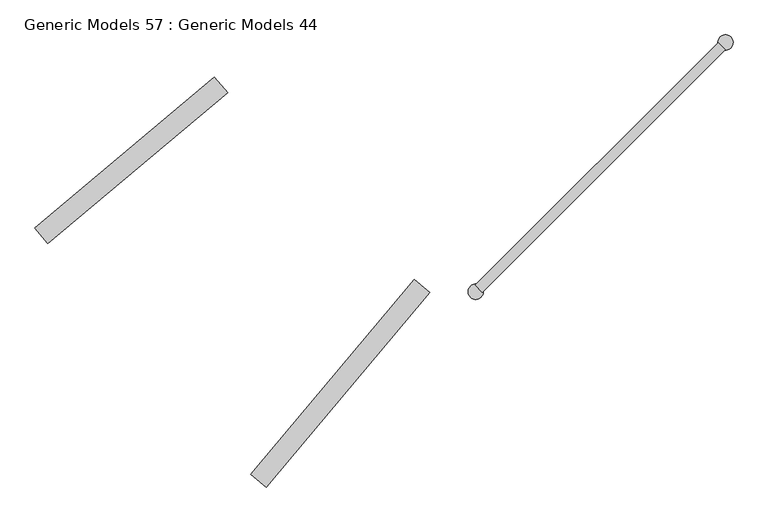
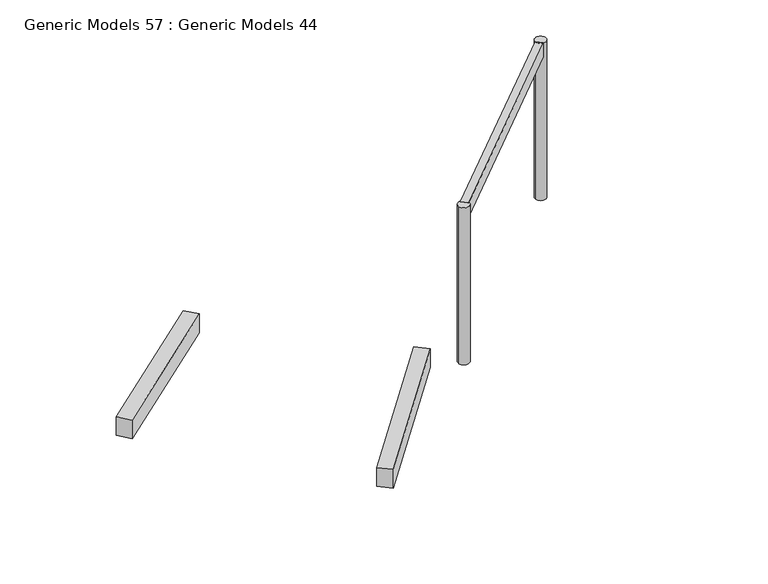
"""IFC4 building model written with IfcOpenShell, lengths in millimetres: proxy geometry, Generic Models 57 : Generic Models 44."""

from ifc_helpers import new_model, si_unit, point, frame, frame_2d, origin, place, context, project, spatial, polyline, circle_curve, trimmed, segment, composite_curve, outline, extrude, source, transform, mapped, element, save


def generic_models_57_generic_models_44_fe493b06(model_context):
    return source(origin(), model_context, "Body", "SweptSolid", [
        extrude(outline(polyline([(-62112.8840403, -35737.0994253), (-62266.0929289, -35608.5419033), (-60655.0655763, -33688.5942681), (-60501.8566877, -33817.1517901), (-62112.8840403, -35737.0994253)])), frame((0.0, 0.0, 42770.0), z_axis=(0.0, 0.0, 1.0), x_axis=(1.0, 0.0, 0.0)), (0.0, 0.0, 1.0), 268.5053554),
        extrude(outline(polyline([(-64261.9108819, -33333.9533005), (-64390.4684038, -33180.7444118), (-62622.1007293, -31696.9077484), (-62493.5432074, -31850.116637), (-64261.9108819, -33333.9533005)])), frame((0.0, 0.0, 42770.0), z_axis=(0.0, 0.0, 1.0), x_axis=(1.0, 0.0, 0.0)), (0.0, 0.0, 1.0), 268.5053554),
        extrude(outline(polyline([(-59984.0743625, -33817.7796088), (-60054.7850406, -33747.0689307), (-57662.0700031, -31354.3538932), (-57591.359325, -31425.0645713), (-59984.0743625, -33817.7796088)])), frame((0.0, 0.0, 44746.1646464), z_axis=(0.0, 0.0, 1.0), x_axis=(1.0, 0.0, 0.0)), (0.0, 0.0, 1.0), 195.4634247),
        extrude(outline(composite_curve([segment(trimmed(circle_curve(frame_2d((-60049.141564, -33810.9678051)), 75.0), [point((-60124.141564, -33810.9678051))], [point((-59974.141564, -33810.9678051))], False, "CARTESIAN"), True, "CONTINUOUS"), segment(trimmed(circle_curve(frame_2d((-60049.141564, -33810.9678051)), 75.0), [point((-59974.141564, -33810.9678051))], [point((-60124.141564, -33810.9678051))], False, "CARTESIAN"), True, "CONTINUOUS")], self_intersect=False)), frame((0.0, 0.0, 42695.9057084), z_axis=(0.0, 0.0, 1.0), x_axis=(1.0, 0.0, 0.0)), (0.0, 0.0, 1.0), 2245.7223627),
        extrude(outline(composite_curve([segment(trimmed(circle_curve(frame_2d((-57588.9528347, -31353.5552475)), 75.0), [point((-57663.9528347, -31353.5552475))], [point((-57513.9528347, -31353.5552475))], False, "CARTESIAN"), True, "CONTINUOUS"), segment(trimmed(circle_curve(frame_2d((-57588.9528347, -31353.5552475)), 75.0), [point((-57513.9528347, -31353.5552475))], [point((-57663.9528347, -31353.5552475))], False, "CARTESIAN"), True, "CONTINUOUS")], self_intersect=False)), frame((0.0, 0.0, 42695.9057084), z_axis=(0.0, 0.0, 1.0), x_axis=(1.0, 0.0, 0.0)), (0.0, 0.0, 1.0), 2245.7223627),
    ])


if __name__ == "__main__":
    model = new_model("IFC4")
    model_context = context("Model", 3, world=origin())
    ifc_project = project(units=[si_unit("LENGTHUNIT", "METRE", prefix="MILLI")], contexts=[model_context])
    site = spatial("IfcSite", under=ifc_project)
    building = spatial("IfcBuilding", under=site)
    placement = place(None, origin())
    generic_models_57_generic_models_44_shape = generic_models_57_generic_models_44_fe493b06(model_context)
    element("IfcBuildingElementProxy", 1, Name="Generic Models 57 : Generic Models 44", ObjectType="Generic Models 57 : Generic Models 44", at=placement, inside=building, context=model_context, shape_type="MappedRepresentation", body=[
        mapped(generic_models_57_generic_models_44_shape, transform((0.0, 0.0, 0.0), x_axis=(1.0, 0.0, 0.0), y_axis=(0.0, 1.0, 0.0), z_axis=(0.0, 0.0, 1.0))),
    ])
    save(model, "model.ifc")
